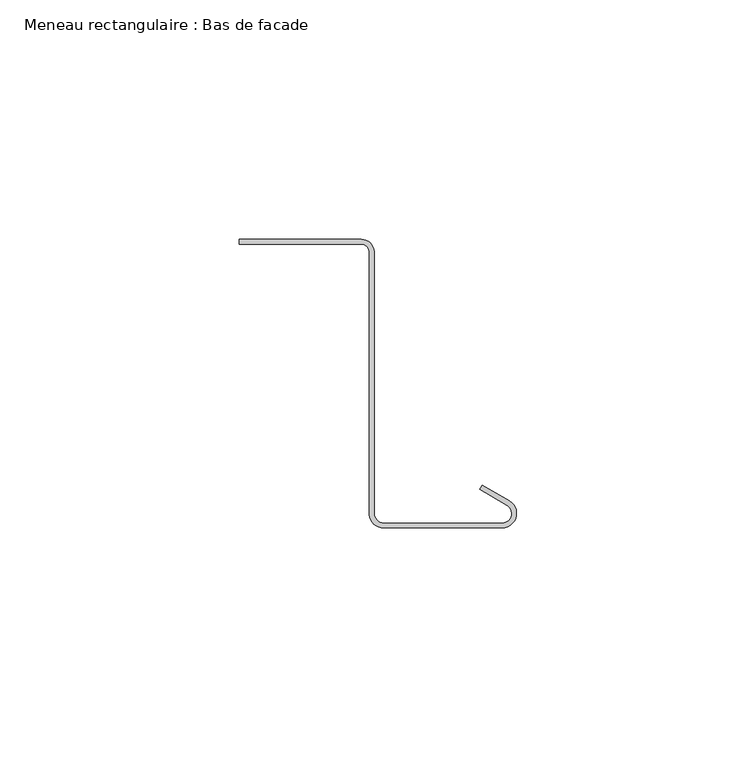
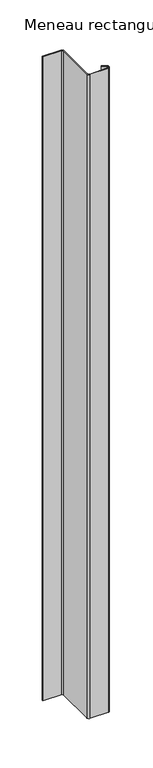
"""IFC4 building model written with IfcOpenShell, lengths in millimetres: member geometry, Meneau rectangulaire : Bas de facade."""

from ifc_helpers import new_model, si_unit, point, frame, frame_2d, origin, place, context, project, spatial, polyline, circle_curve, trimmed, segment, composite_curve, outline, extrude, source, transform, mapped, element, save


def meneau_rectangulaire_bas_de_facade_ff95f192(model_context):
    return source(origin(), model_context, "Body", "SweptSolid", [
        extrude(outline(composite_curve([segment(trimmed(circle_curve(frame_2d((-32.4584179, 0.2088923)), 2.75), [point((-32.4584179, 2.9588923))], [point((-29.7143802, 0.3898824))], False, "CARTESIAN"), True, "CONTINUOUS"), segment(polyline([(-29.7143802, 0.3898824), (-29.7143802, -54.5495817)]), True, "CONTINUOUS"), segment(trimmed(circle_curve(frame_2d((-27.735368, -54.2605998)), 2.0), [point((-29.7143802, -54.5495817))], [point((-27.735368, -56.2605998))], True, "CARTESIAN"), True, "CONTINUOUS"), segment(polyline([(-27.735368, -56.2605998), (-3.0, -56.2605998)]), True, "CONTINUOUS"), segment(trimmed(circle_curve(frame_2d((-3.0, -54.2605998)), 2.0), [point((-3.0, -56.2605998))], [point((-2.0, -52.528549))], True, "CARTESIAN"), True, "CONTINUOUS"), segment(polyline([(-2.0, -52.528549), (-7.6638061, -49.258549), (-7.1638061, -48.3925235), (-1.5, -51.6625235)]), True, "CONTINUOUS"), segment(trimmed(circle_curve(frame_2d((-3.0, -54.2605998)), 3.0), [point((-1.5, -51.6625235))], [point((-3.0, -57.2605998))], False, "CARTESIAN"), True, "CONTINUOUS"), segment(polyline([(-3.0, -57.2605998), (-27.735368, -57.2605998)]), True, "CONTINUOUS"), segment(trimmed(circle_curve(frame_2d((-27.735368, -54.2605998)), 3.0), [point((-27.735368, -57.2605998))], [point((-30.7239521, -54.522067))], False, "CARTESIAN"), True, "CONTINUOUS"), segment(polyline([(-30.7239521, -54.522067), (-30.7239521, 0.4415475)]), True, "CONTINUOUS"), segment(trimmed(circle_curve(frame_2d((-32.4584179, 0.2088923)), 1.75), [point((-30.7239521, 0.4415475))], [point((-32.4584179, 1.9588923))], True, "CARTESIAN"), True, "CONTINUOUS"), segment(polyline([(-32.4584179, 1.9588923), (-57.8548383, 1.9588923), (-57.8548383, 2.9588923), (-32.4584179, 2.9588923)]), True, "CONTINUOUS")], self_intersect=False)), frame((0.0, 0.0, -928.0), z_axis=(0.0, 0.0, 1.0), x_axis=(1.0, 0.0, 0.0)), (0.0, 0.0, 1.0), 928.0),
    ])


if __name__ == "__main__":
    model = new_model("IFC4")
    model_context = context("Model", 3, world=origin())
    ifc_project = project(units=[si_unit("LENGTHUNIT", "METRE", prefix="MILLI")], contexts=[model_context])
    site = spatial("IfcSite", under=ifc_project)
    building = spatial("IfcBuilding", under=site)
    placement = place(None, origin())
    meneau_rectangulaire_bas_de_facade_shape = meneau_rectangulaire_bas_de_facade_ff95f192(model_context)
    element("IfcMember", 1, ObjectType="Meneau rectangulaire : Bas de facade", at=placement, inside=building, context=model_context, shape_type="MappedRepresentation", body=[
        mapped(meneau_rectangulaire_bas_de_facade_shape, transform((0.0, 0.0, 0.0), x_axis=(1.0, 0.0, 0.0), y_axis=(0.0, 1.0, 0.0), z_axis=(0.0, 0.0, 1.0))),
    ])
    save(model, "model.ifc")
